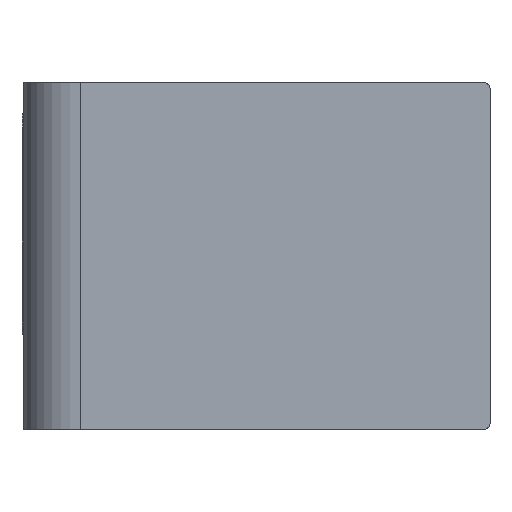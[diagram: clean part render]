
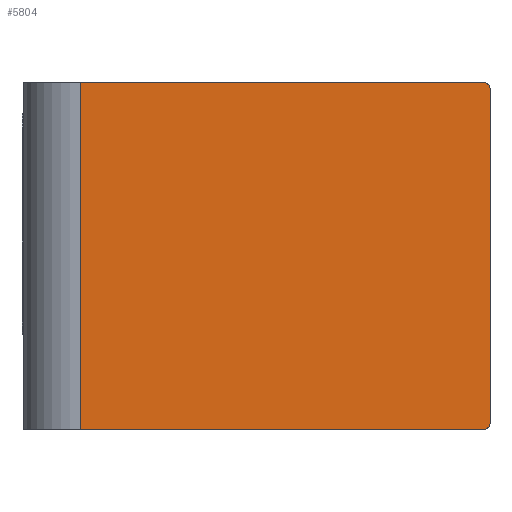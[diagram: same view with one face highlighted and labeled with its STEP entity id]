
A CAD part, left-side view. The second image highlights one B-rep face of the part: STEP entity #5804.
In plain terms, the highlighted planar face has unit normal (-1, 0, 0).
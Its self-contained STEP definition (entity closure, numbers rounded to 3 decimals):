
#123 = PLANE ( 'NONE',  #347 ) ;
#347 = AXIS2_PLACEMENT_3D ( 'NONE', #3741, #3972, #7540 ) ;
#517 = DIRECTION ( 'NONE',  ( 0., -1., 0. ) ) ;
#707 = DIRECTION ( 'NONE',  ( 0., 0., 1. ) ) ;
#895 = DIRECTION ( 'NONE',  ( -1., 0., 0. ) ) ;
#1441 = ORIENTED_EDGE ( 'NONE', *, *, #4941, .F. ) ;
#1578 = ORIENTED_EDGE ( 'NONE', *, *, #6936, .T. ) ;
#1842 = VERTEX_POINT ( 'NONE', #10762 ) ;
#2248 = LINE ( 'NONE', #5830, #3448 ) ;
#2492 = CARTESIAN_POINT ( 'NONE',  ( -650., 10., -265. ) ) ;
#2565 = DIRECTION ( 'NONE',  ( 0., -1., 0. ) ) ;
#2619 = VERTEX_POINT ( 'NONE', #10376 ) ;
#2847 = FACE_OUTER_BOUND ( 'NONE', #8461, .T. ) ;
#3330 = CARTESIAN_POINT ( 'NONE',  ( -650., 0., 275. ) ) ;
#3448 = VECTOR ( 'NONE', #9454, 1000. ) ;
#3615 = VERTEX_POINT ( 'NONE', #5964 ) ;
#3741 = CARTESIAN_POINT ( 'NONE',  ( -650., 0., -275. ) ) ;
#3972 = DIRECTION ( 'NONE',  ( -1., 0., 0. ) ) ;
#4314 = VERTEX_POINT ( 'NONE', #5346 ) ;
#4413 = LINE ( 'NONE', #10797, #8609 ) ;
#4796 = VECTOR ( 'NONE', #2565, 1000. ) ;
#4941 = EDGE_CURVE ( 'NONE', #7706, #5583, #7095, .T. ) ;
#5077 = EDGE_CURVE ( 'NONE', #7706, #3615, #2248, .T. ) ;
#5346 = CARTESIAN_POINT ( 'NONE',  ( -650., 10., -275. ) ) ;
#5405 = DIRECTION ( 'NONE',  ( 0., 0., 1. ) ) ;
#5583 = VERTEX_POINT ( 'NONE', #7972 ) ;
#5804 = ADVANCED_FACE ( 'NONE', ( #2847 ), #123, .T. ) ;
#5827 = ORIENTED_EDGE ( 'NONE', *, *, #5077, .T. ) ;
#5830 = CARTESIAN_POINT ( 'NONE',  ( -650., 650., -275. ) ) ;
#5944 = EDGE_CURVE ( 'NONE', #3615, #4314, #10637, .T. ) ;
#5964 = CARTESIAN_POINT ( 'NONE',  ( -650., 650., -275. ) ) ;
#6936 = EDGE_CURVE ( 'NONE', #1842, #5583, #8638, .T. ) ;
#7095 = LINE ( 'NONE', #3330, #4796 ) ;
#7185 = EDGE_CURVE ( 'NONE', #4314, #2619, #8083, .T. ) ;
#7278 = EDGE_CURVE ( 'NONE', #2619, #1842, #4413, .T. ) ;
#7540 = DIRECTION ( 'NONE',  ( 0., 0., 1. ) ) ;
#7706 = VERTEX_POINT ( 'NONE', #9708 ) ;
#7784 = DIRECTION ( 'NONE',  ( -1., 0., 0. ) ) ;
#7972 = CARTESIAN_POINT ( 'NONE',  ( -650., 10., 275. ) ) ;
#8043 = CARTESIAN_POINT ( 'NONE',  ( -650., 10., 265. ) ) ;
#8083 = CIRCLE ( 'NONE', #10705, 10. ) ;
#8461 = EDGE_LOOP ( 'NONE', ( #8905, #8641, #10173, #1578, #1441, #5827 ) ) ;
#8609 = VECTOR ( 'NONE', #5405, 1000. ) ;
#8638 = CIRCLE ( 'NONE', #9793, 10. ) ;
#8641 = ORIENTED_EDGE ( 'NONE', *, *, #7185, .T. ) ;
#8728 = CARTESIAN_POINT ( 'NONE',  ( -650., 0., -275. ) ) ;
#8905 = ORIENTED_EDGE ( 'NONE', *, *, #5944, .T. ) ;
#9454 = DIRECTION ( 'NONE',  ( 0., 0., -1. ) ) ;
#9481 = VECTOR ( 'NONE', #517, 1000. ) ;
#9708 = CARTESIAN_POINT ( 'NONE',  ( -650., 650., 275. ) ) ;
#9793 = AXIS2_PLACEMENT_3D ( 'NONE', #8043, #895, #11658 ) ;
#10173 = ORIENTED_EDGE ( 'NONE', *, *, #7278, .T. ) ;
#10376 = CARTESIAN_POINT ( 'NONE',  ( -650., 0., -265. ) ) ;
#10637 = LINE ( 'NONE', #8728, #9481 ) ;
#10705 = AXIS2_PLACEMENT_3D ( 'NONE', #2492, #7784, #707 ) ;
#10762 = CARTESIAN_POINT ( 'NONE',  ( -650., 0., 265. ) ) ;
#10797 = CARTESIAN_POINT ( 'NONE',  ( -650., 0., -275. ) ) ;
#11658 = DIRECTION ( 'NONE',  ( 0., 0., 1. ) ) ;
